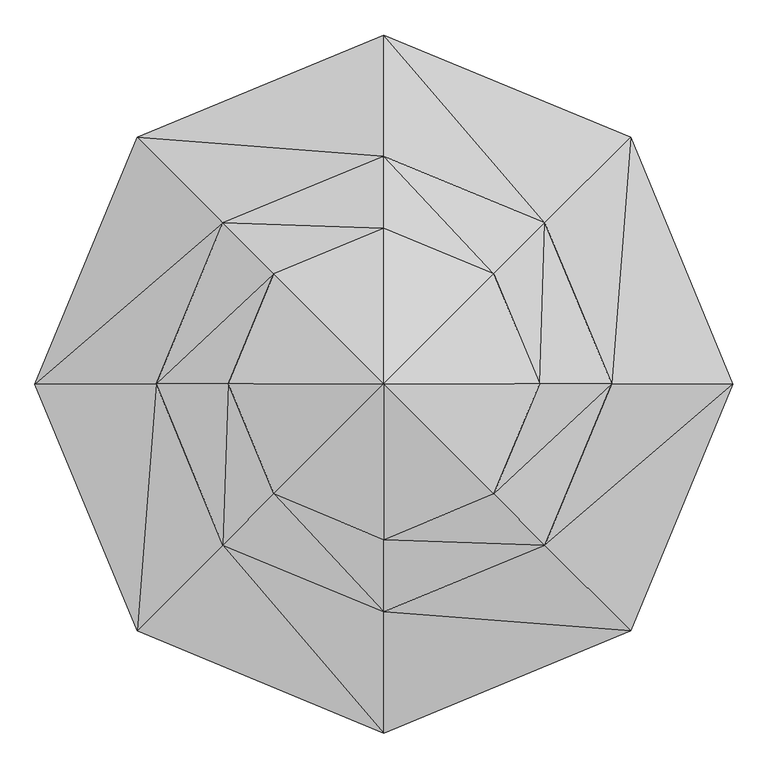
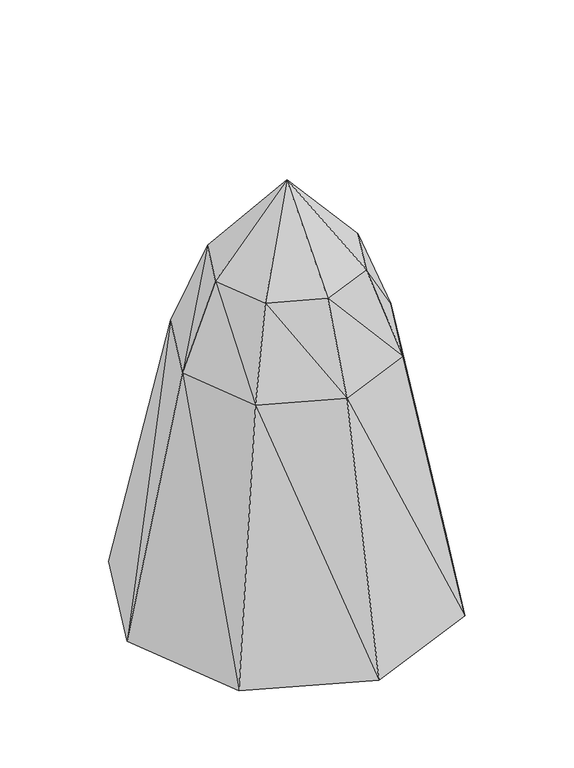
"""IFC4 building model written with IfcOpenShell, lengths in millimetres: geographic element geometry, Enscape AssetDefinition - Evergreen Tree 018 English Laurel : Enscape AssetDefinition - Evergreen Tree 018 English Laurel."""

from ifc_helpers import new_model, si_unit, origin, place, context, project, spatial, faceted_brep, source, transform, mapped, element, save


def geographic_element_ef1eaf45(model_context):
    return source(origin(), model_context, "Body", "Brep", [
        faceted_brep([(-4.9100365, 0.0, 2540.7788754), (414.8460627, 0.0, 2055.9022427), (291.903168, 296.8122065, 2055.9022427), (429.5661747, 434.4752431, 1552.6584387), (609.5315218, 0.0, 1552.6584387), (291.9021845, -296.8122065, 2055.9022427), (-4.9090367, 419.7561145, 2055.9022427), (-4.9100365, 614.4405603, 1552.6584387), (660.7359052, 665.645957, -4.8240358), (-4.9100365, 941.3650036, -4.8240358), (-439.3852949, 434.4752431, 1552.6584387), (-670.5559492, 665.645957, -4.8240358), (-301.7212451, 296.8122065, 2055.9022427), (-619.3506122, 0.0, 1552.6584387), (-946.2750554, 0.0, -4.8240358), (-670.5549955, -665.645957, -4.8240358), (-424.6651828, 0.0, 2055.9022427), (-439.3852949, -434.4752431, 1552.6584387), (-301.7222583, -296.8122065, 2055.9022427), (-4.9100365, -614.4415736, 1552.6584387), (-4.9090367, -941.3660169, -4.8240358), (660.7368588, -665.645957, -4.8240358), (-4.9100365, -419.7561145, 2055.9022427), (429.5661747, -434.4752431, 1552.6584387), (936.4559054, 0.0, -4.8240358)], [[[0, 1, 2]], [[3, 1, 4]], [[1, 3, 2]], [[0, 5, 1]], [[5, 4, 1]], [[0, 2, 6]], [[7, 2, 3]], [[2, 7, 6]], [[4, 8, 3]], [[9, 3, 8]], [[3, 9, 7]], [[10, 6, 7]], [[11, 7, 9]], [[7, 11, 10]], [[0, 6, 12]], [[6, 10, 12]], [[13, 12, 10]], [[14, 10, 11]], [[10, 14, 13]], [[11, 15, 14]], [[8, 11, 9]], [[8, 15, 11]], [[15, 13, 14]], [[12, 13, 16]], [[17, 16, 13]], [[13, 15, 17]], [[0, 12, 16]], [[0, 16, 18]], [[16, 17, 18]], [[19, 18, 17]], [[20, 17, 15]], [[17, 20, 19]], [[15, 21, 20]], [[8, 21, 15]], [[21, 19, 20]], [[18, 19, 22]], [[23, 22, 19]], [[19, 21, 23]], [[0, 18, 22]], [[0, 22, 5]], [[22, 23, 5]], [[4, 5, 23]], [[24, 23, 21]], [[23, 24, 4]], [[8, 24, 21]], [[8, 4, 24]]]),
    ])


if __name__ == "__main__":
    model = new_model("IFC4")
    model_context = context("Model", 3, world=origin())
    ifc_project = project(units=[si_unit("LENGTHUNIT", "METRE", prefix="MILLI")], contexts=[model_context])
    site = spatial("IfcSite", under=ifc_project)
    building = spatial("IfcBuilding", under=site)
    placement = place(None, origin())
    geographic_element_shape = geographic_element_ef1eaf45(model_context)
    element("IfcGeographicElement", 1, ObjectType="Enscape AssetDefinition - Evergreen Tree 018 English Laurel : Enscape AssetDefinition - Evergreen Tree 018 English Laurel", at=placement, inside=building, context=model_context, shape_type="MappedRepresentation", body=[
        mapped(geographic_element_shape, transform((0.0, 0.0, 0.0), x_axis=(1.0, 0.0, 0.0), y_axis=(0.0, 1.0, 0.0), z_axis=(0.0, 0.0, 1.0))),
    ])
    save(model, "model.ifc")
